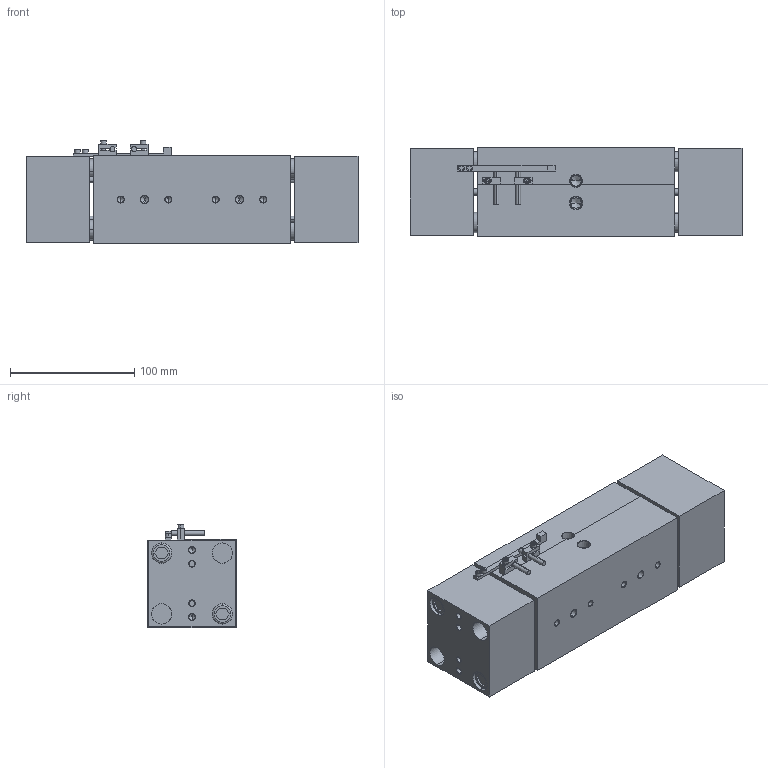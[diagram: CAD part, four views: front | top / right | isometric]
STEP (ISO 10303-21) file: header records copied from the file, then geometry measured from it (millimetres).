
FILE_DESCRIPTION (( 'STEP AP203' ), '1' );
FILE_NAME ('AGW-625-4 CLOSED in IN.STEP', '2014-11-25T15:55:49', ( 'setup' ), ( '' ), 'SwSTEP 2.0', 'SolidWorks 2013', '' );
FILE_SCHEMA (( 'CONFIG_CONTROL_DESIGN' ));
Length unit declared in the file: inch
Products named in the file (8): AGW-625-4 BODY; AGW-625-4 TOOL PLATE; AGW-625-4 SENSOR BLOCK; AGW-625-4 SENSOR; AGW-625-4 PROD; AGW-625-4 GUIDE ROD; AGW-625-4 SENSOR FLAG; AGW-625-4 CLOSED in IN
Assembly tree (16 placements, depth 2):
  AGW-625-4 CLOSED in IN
    AGW-625-4 BODY
    AGW-625-4 TOOL PLATE  x2
    AGW-625-4 SENSOR BLOCK  x2
    AGW-625-4 SENSOR  x2
    AGW-625-4 PROD  x4
    AGW-625-4 GUIDE ROD  x4
    AGW-625-4 SENSOR FLAG
Bounding box: 266.7 x 71.12 x 83.19 mm (x, y, z)
Volume: 1157014.4 mm3; surface area: 201834.6 mm2
Topology: 20 solids, 20 shells, 389 faces, 922 edges, 564 vertices
Faces by surface type: plane 161, cylinder 134, cone 82, torus 12
Entity records: 8388 total; most frequent: DIRECTION 1362, CARTESIAN_POINT 1236, ORIENTED_EDGE 1164, EDGE_CURVE 582, AXIS2_PLACEMENT_3D 508, VERTEX_POINT 368, LINE 346, VECTOR 346
